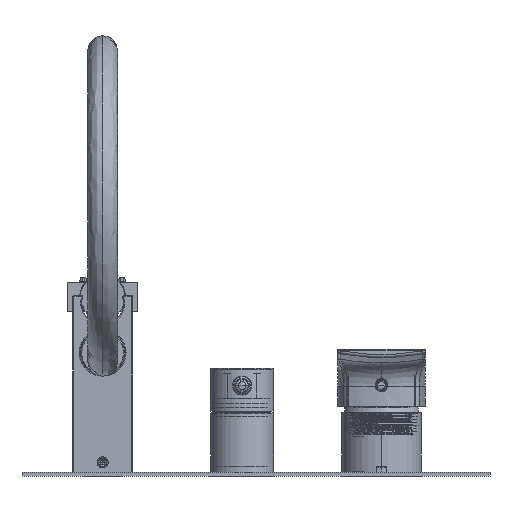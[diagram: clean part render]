
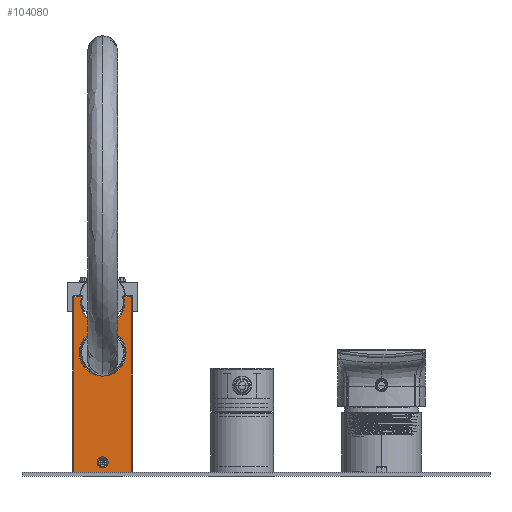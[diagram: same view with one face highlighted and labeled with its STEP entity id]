
A CAD part, front view. The second image highlights one B-rep face of the part: STEP entity #104080.
In plain terms, the highlighted planar face has unit normal (0, -1, 0).
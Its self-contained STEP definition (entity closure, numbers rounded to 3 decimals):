
#86341=DIRECTION('',(0.,0.,1.));
#86342=VECTOR('',#86341,88.1);
#86343=CARTESIAN_POINT('',(-84.5,-13.,15.5));
#86344=LINE('',#86343,#86342);
#86345=DIRECTION('',(-1.,0.,0.));
#86346=VECTOR('',#86345,3.942);
#86347=CARTESIAN_POINT('',(-80.558,-13.,103.6));
#86348=LINE('',#86347,#86346);
#86349=CARTESIAN_POINT('',(-70.,-13.,100.5));
#86350=DIRECTION('',(0.,1.,0.));
#86351=DIRECTION('',(0.959,0.,0.283));
#86352=AXIS2_PLACEMENT_3D('',#86349,#86350,#86351);
#86354=DIRECTION('',(-1.,0.,0.));
#86355=VECTOR('',#86354,3.945);
#86356=CARTESIAN_POINT('',(-55.5,-13.,103.609));
#86357=LINE('',#86356,#86355);
#86358=DIRECTION('',(0.,0.,-1.));
#86359=VECTOR('',#86358,88.109);
#86360=CARTESIAN_POINT('',(-55.5,-13.,103.609));
#86361=LINE('',#86360,#86359);
#86362=CARTESIAN_POINT('',(-70.,-13.,75.5));
#86363=DIRECTION('',(0.,-1.,0.));
#86364=DIRECTION('',(0.,0.,-1.));
#86365=AXIS2_PLACEMENT_3D('',#86362,#86363,#86364);
#86367=CARTESIAN_POINT('',(-70.,-13.,75.5));
#86368=DIRECTION('',(0.,-1.,0.));
#86369=DIRECTION('',(0.,0.,1.));
#86370=AXIS2_PLACEMENT_3D('',#86367,#86368,#86369);
#86372=CARTESIAN_POINT('',(-70.,-13.,20.5));
#86373=DIRECTION('',(0.,-1.,0.));
#86374=DIRECTION('',(0.,0.,-1.));
#86375=AXIS2_PLACEMENT_3D('',#86372,#86373,#86374);
#86377=CARTESIAN_POINT('',(-70.,-13.,20.5));
#86378=DIRECTION('',(0.,-1.,0.));
#86379=DIRECTION('',(0.,0.,1.));
#86380=AXIS2_PLACEMENT_3D('',#86377,#86378,#86379);
#86432=DIRECTION('',(-1.,0.,0.));
#86433=VECTOR('',#86432,29.);
#86434=CARTESIAN_POINT('',(-55.5,-13.,15.5));
#86435=LINE('',#86434,#86433);
#99559=CARTESIAN_POINT('',(-70.,-13.,87.25));
#99560=VERTEX_POINT('',#99559);
#99561=CARTESIAN_POINT('',(-70.,-13.,63.75));
#99562=VERTEX_POINT('',#99561);
#99583=CARTESIAN_POINT('',(-70.,-13.,17.75));
#99584=CARTESIAN_POINT('',(-70.,-13.,23.25));
#99585=VERTEX_POINT('',#99583);
#99586=VERTEX_POINT('',#99584);
#99597=CARTESIAN_POINT('',(-55.5,-13.,103.609));
#99598=VERTEX_POINT('',#99597);
#99599=CARTESIAN_POINT('',(-59.445,-13.,103.609));
#99600=VERTEX_POINT('',#99599);
#99605=CARTESIAN_POINT('',(-80.558,-13.,103.6));
#99606=VERTEX_POINT('',#99605);
#99611=CARTESIAN_POINT('',(-84.5,-13.,103.6));
#99612=VERTEX_POINT('',#99611);
#99637=CARTESIAN_POINT('',(-55.5,-13.,15.5));
#99638=CARTESIAN_POINT('',(-84.5,-13.,15.5));
#99639=VERTEX_POINT('',#99637);
#99640=VERTEX_POINT('',#99638);
#104050=CARTESIAN_POINT('',(-85.,-13.,120.5));
#104051=DIRECTION('',(0.,1.,0.));
#104052=DIRECTION('',(0.,0.,-1.));
#104053=AXIS2_PLACEMENT_3D('',#104050,#104051,#104052);
#104054=PLANE('',#104053);
#104056=ORIENTED_EDGE('',*,*,#104055,.T.);
#104058=ORIENTED_EDGE('',*,*,#104057,.F.);
#104059=ORIENTED_EDGE('',*,*,#104041,.F.);
#104061=ORIENTED_EDGE('',*,*,#104060,.F.);
#104063=ORIENTED_EDGE('',*,*,#104062,.T.);
#104065=ORIENTED_EDGE('',*,*,#104064,.T.);
#104066=EDGE_LOOP('',(#104056,#104058,#104059,#104061,#104063,#104065));
#104067=FACE_OUTER_BOUND('',#104066,.F.);
#104069=ORIENTED_EDGE('',*,*,#104068,.T.);
#104071=ORIENTED_EDGE('',*,*,#104070,.T.);
#104072=EDGE_LOOP('',(#104069,#104071));
#104073=FACE_BOUND('',#104072,.F.);
#104075=ORIENTED_EDGE('',*,*,#104074,.T.);
#104077=ORIENTED_EDGE('',*,*,#104076,.T.);
#104078=EDGE_LOOP('',(#104075,#104077));
#104079=FACE_BOUND('',#104078,.F.);
#104080=ADVANCED_FACE('',(#104067,#104073,#104079),#104054,.F.);
#86353=CIRCLE('',#86352,11.004);
#86366=CIRCLE('',#86365,11.75);
#86371=CIRCLE('',#86370,11.75);
#86376=CIRCLE('',#86375,2.75);
#86381=CIRCLE('',#86380,2.75);
#104041=EDGE_CURVE('',#99600,#99606,#86353,.T.);
#104055=EDGE_CURVE('',#99640,#99612,#86344,.T.);
#104057=EDGE_CURVE('',#99606,#99612,#86348,.T.);
#104060=EDGE_CURVE('',#99598,#99600,#86357,.T.);
#104062=EDGE_CURVE('',#99598,#99639,#86361,.T.);
#104064=EDGE_CURVE('',#99639,#99640,#86435,.T.);
#104068=EDGE_CURVE('',#99562,#99560,#86366,.T.);
#104070=EDGE_CURVE('',#99560,#99562,#86371,.T.);
#104074=EDGE_CURVE('',#99585,#99586,#86376,.T.);
#104076=EDGE_CURVE('',#99586,#99585,#86381,.T.);
